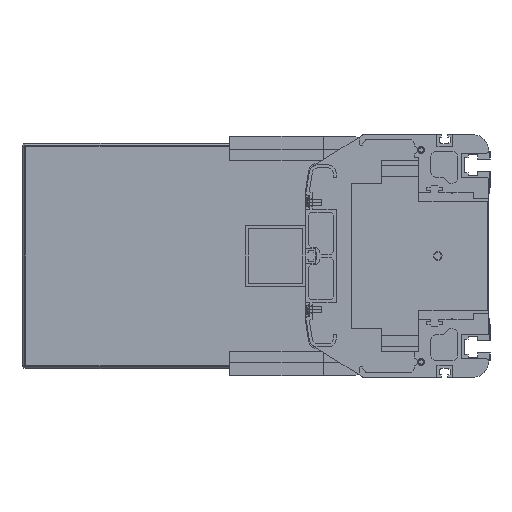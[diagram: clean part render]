
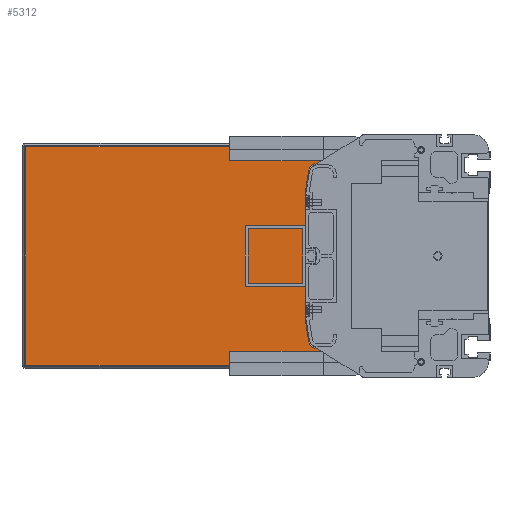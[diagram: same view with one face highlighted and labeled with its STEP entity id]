
A CAD part, left-side view. The second image highlights one B-rep face of the part: STEP entity #5312.
In plain terms, the highlighted planar face has unit normal (-1, 0, 0).
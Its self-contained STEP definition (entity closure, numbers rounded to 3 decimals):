
#29=DIRECTION('',(0.,0.,-1.));
#30=VECTOR('',#29,11.);
#31=CARTESIAN_POINT('',(4786.5,86.,72.));
#32=LINE('',#31,#30);
#53=DIRECTION('',(0.,0.,-1.));
#54=VECTOR('',#53,11.);
#55=CARTESIAN_POINT('',(4786.5,86.,-61.));
#56=LINE('',#55,#54);
#644=DIRECTION('',(0.,1.,0.));
#645=VECTOR('',#644,28.728);
#646=CARTESIAN_POINT('',(4786.5,86.,-61.));
#647=LINE('',#646,#645);
#652=CARTESIAN_POINT('',(4786.5,114.728,56.));
#653=DIRECTION('',(-1.,0.,0.));
#654=DIRECTION('',(0.,0.,1.));
#655=AXIS2_PLACEMENT_3D('',#652,#653,#654);
#657=DIRECTION('',(0.,0.156,-0.988));
#658=VECTOR('',#657,14.963);
#659=CARTESIAN_POINT('',(4786.5,119.666,56.78));
#660=LINE('',#659,#658);
#661=DIRECTION('',(0.,-0.156,-0.988));
#662=VECTOR('',#661,14.963);
#663=CARTESIAN_POINT('',(4786.5,122.,-42.));
#664=LINE('',#663,#662);
#665=CARTESIAN_POINT('',(4786.5,114.728,-56.));
#666=DIRECTION('',(-1.,0.,0.));
#667=DIRECTION('',(0.,0.988,-0.156));
#668=AXIS2_PLACEMENT_3D('',#665,#666,#667);
#674=DIRECTION('',(0.,-1.,0.));
#675=VECTOR('',#674,220.5);
#676=CARTESIAN_POINT('',(4786.5,306.5,-72.));
#677=LINE('',#676,#675);
#1817=DIRECTION('',(0.,0.,-1.));
#1818=VECTOR('',#1817,144.);
#1819=CARTESIAN_POINT('',(4786.5,306.5,72.));
#1820=LINE('',#1819,#1818);
#1836=DIRECTION('',(0.,1.,0.));
#1837=VECTOR('',#1836,220.5);
#1838=CARTESIAN_POINT('',(4786.5,86.,72.));
#1839=LINE('',#1838,#1837);
#3142=DIRECTION('',(0.,-1.,0.));
#3143=VECTOR('',#3142,28.728);
#3144=CARTESIAN_POINT('',(4786.5,114.728,61.));
#3145=LINE('',#3144,#3143);
#3158=DIRECTION('',(0.,0.,1.));
#3159=VECTOR('',#3158,84.);
#3160=CARTESIAN_POINT('',(4786.5,122.,-42.));
#3161=LINE('',#3160,#3159);
#3776=CARTESIAN_POINT('',(4786.5,306.5,-72.));
#3777=CARTESIAN_POINT('',(4786.5,86.,-72.));
#3778=VERTEX_POINT('',#3776);
#3779=VERTEX_POINT('',#3777);
#3780=CARTESIAN_POINT('',(4786.5,86.,-61.));
#3781=VERTEX_POINT('',#3780);
#3782=CARTESIAN_POINT('',(4786.5,114.728,-61.));
#3783=VERTEX_POINT('',#3782);
#3784=CARTESIAN_POINT('',(4786.5,119.666,-56.78));
#3785=VERTEX_POINT('',#3784);
#3786=CARTESIAN_POINT('',(4786.5,122.,-42.));
#3787=VERTEX_POINT('',#3786);
#3788=CARTESIAN_POINT('',(4786.5,122.,42.));
#3789=VERTEX_POINT('',#3788);
#3790=CARTESIAN_POINT('',(4786.5,119.666,56.78));
#3791=VERTEX_POINT('',#3790);
#3792=CARTESIAN_POINT('',(4786.5,114.728,61.));
#3793=VERTEX_POINT('',#3792);
#3794=CARTESIAN_POINT('',(4786.5,86.,61.));
#3795=VERTEX_POINT('',#3794);
#3796=CARTESIAN_POINT('',(4786.5,86.,72.));
#3797=VERTEX_POINT('',#3796);
#3798=CARTESIAN_POINT('',(4786.5,306.5,72.));
#3799=VERTEX_POINT('',#3798);
#5284=CARTESIAN_POINT('',(4786.5,196.25,0.));
#5285=DIRECTION('',(1.,0.,0.));
#5286=DIRECTION('',(0.,0.,-1.));
#5287=AXIS2_PLACEMENT_3D('',#5284,#5285,#5286);
#5288=PLANE('',#5287);
#5290=ORIENTED_EDGE('',*,*,#5289,.F.);
#5292=ORIENTED_EDGE('',*,*,#5291,.F.);
#5294=ORIENTED_EDGE('',*,*,#5293,.F.);
#5295=ORIENTED_EDGE('',*,*,#4532,.T.);
#5297=ORIENTED_EDGE('',*,*,#5296,.F.);
#5299=ORIENTED_EDGE('',*,*,#5298,.T.);
#5301=ORIENTED_EDGE('',*,*,#5300,.T.);
#5303=ORIENTED_EDGE('',*,*,#5302,.F.);
#5305=ORIENTED_EDGE('',*,*,#5304,.T.);
#5307=ORIENTED_EDGE('',*,*,#5306,.T.);
#5308=ORIENTED_EDGE('',*,*,#5276,.F.);
#5309=ORIENTED_EDGE('',*,*,#4567,.T.);
#5310=EDGE_LOOP('',(#5290,#5292,#5294,#5295,#5297,#5299,#5301,#5303,#5305,#5307,
#5308,#5309));
#5311=FACE_OUTER_BOUND('',#5310,.F.);
#5312=ADVANCED_FACE('',(#5311),#5288,.F.);
#656=CIRCLE('',#655,5.);
#669=CIRCLE('',#668,5.);
#4532=EDGE_CURVE('',#3797,#3795,#32,.T.);
#4567=EDGE_CURVE('',#3781,#3779,#56,.T.);
#5276=EDGE_CURVE('',#3781,#3783,#647,.T.);
#5289=EDGE_CURVE('',#3778,#3779,#677,.T.);
#5291=EDGE_CURVE('',#3799,#3778,#1820,.T.);
#5293=EDGE_CURVE('',#3797,#3799,#1839,.T.);
#5296=EDGE_CURVE('',#3793,#3795,#3145,.T.);
#5298=EDGE_CURVE('',#3793,#3791,#656,.T.);
#5300=EDGE_CURVE('',#3791,#3789,#660,.T.);
#5302=EDGE_CURVE('',#3787,#3789,#3161,.T.);
#5304=EDGE_CURVE('',#3787,#3785,#664,.T.);
#5306=EDGE_CURVE('',#3785,#3783,#669,.T.);
